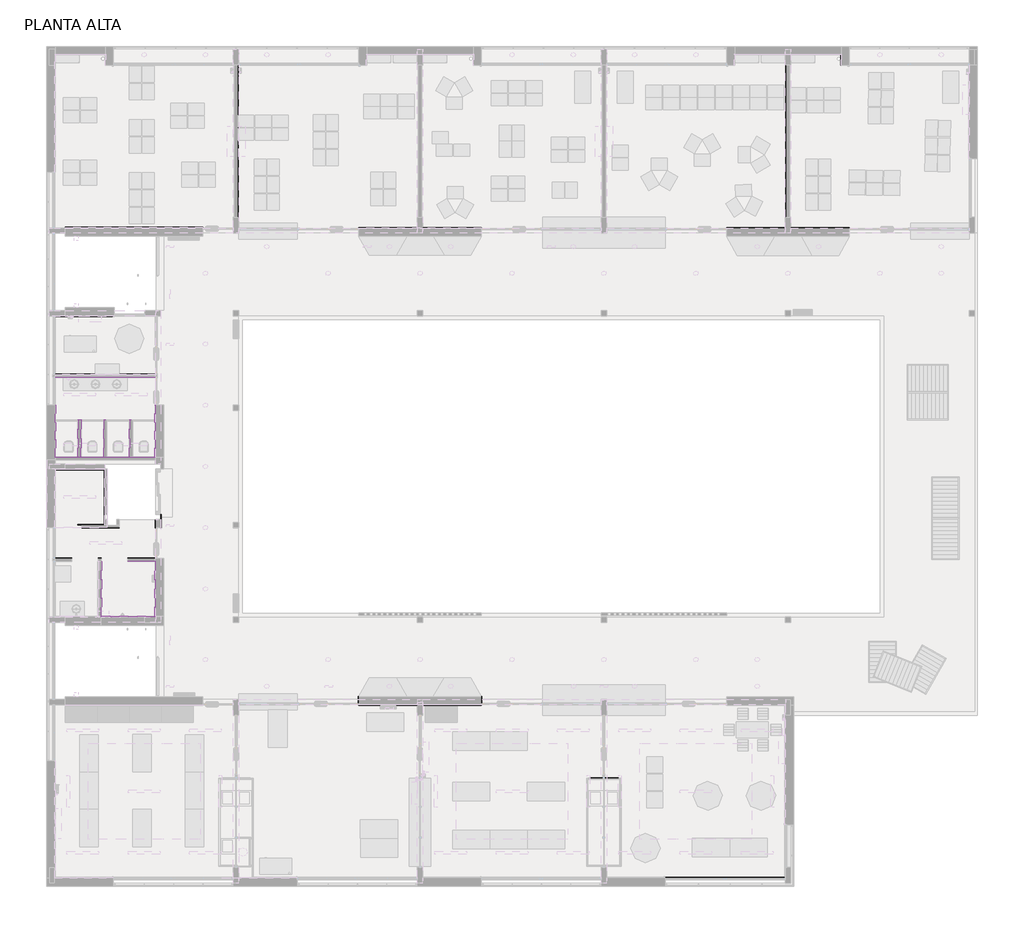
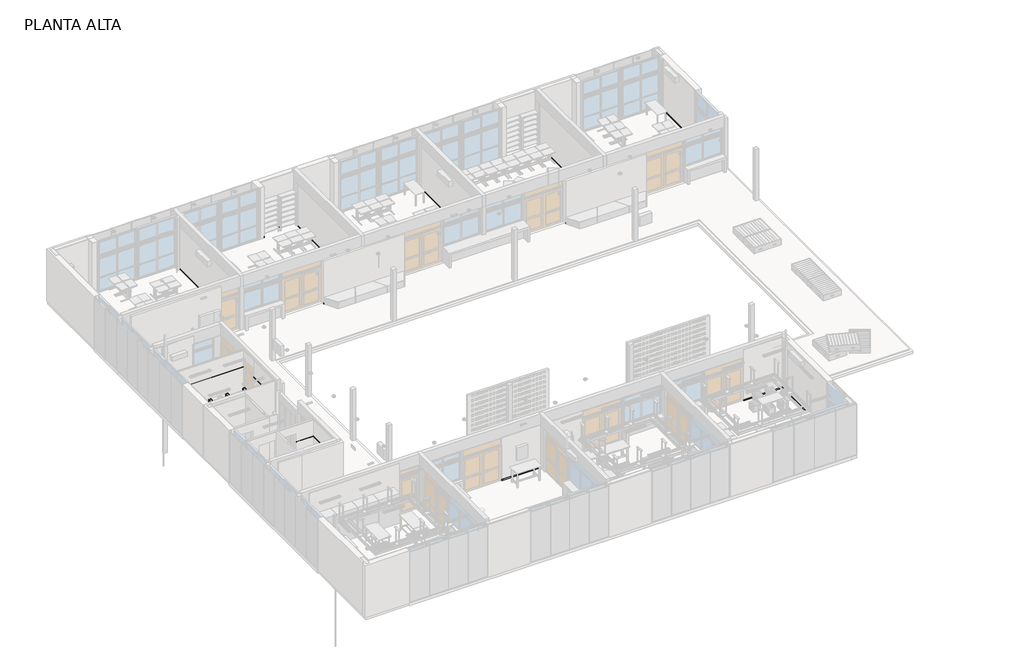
# One storey, part 14 of 14: 39 proxies.
"""IFC4 building model written with IfcOpenShell, lengths in millimetres."""

from ifc_helpers import new_model, si_unit, frame, origin, place, context, project, spatial, polyline, outline, extrude, faceted_brep, element, save

model = new_model("IFC4")

# Units and contexts
model_context = context("Model", 3, world=origin())
ifc_project = project(units=[si_unit("LENGTHUNIT", "METRE", prefix="MILLI")], contexts=[model_context])

# Site, building, storey
site = spatial("IfcSite", under=ifc_project)
building = spatial("IfcBuilding", under=site)
storey = spatial("IfcBuildingStorey", under=building, Name="PLANTA ALTA", Elevation=3310.0)

# Proxies
placement = place(None, origin())
element("IfcBuildingElementProxy", 1, Name="23-BAR-ZÓCALO DE BALDOSA H 70mm", ObjectType="23-BAR-ZÓCALO DE BALDOSA H 70mm", at=placement, inside=storey, context=model_context, shape_type="SweptSolid", body=[
    extrude(outline(polyline([(26288.7173693, 535.2304035), (26288.7173693, 545.2304035), (30763.7173693, 545.2304035), (30773.7173693, 535.2304035), (26288.7173693, 535.2304035)])), frame((0.0, 0.0, 3310.0), z_axis=(0.0, 0.0, 1.0), x_axis=(1.0, 0.0, 0.0)), (0.0, 0.0, 1.0), 70.0),
    extrude(outline(polyline([(30763.7173693, 920.2304035), (30773.7173693, 920.2304035), (30773.7173693, 535.2304035), (30763.7173693, 545.2304035), (30763.7173693, 920.2304035)])), frame((0.0, 0.0, 3310.0), z_axis=(0.0, 0.0, 1.0), x_axis=(1.0, 0.0, 0.0)), (0.0, 0.0, 1.0), 70.0),
    extrude(outline(polyline([(30773.7173693, 920.2304035), (30763.7173693, 920.2304035), (30763.7173693, 2520.2304035), (30773.7173693, 2520.2304035), (30773.7173693, 920.2304035)])), frame((0.0, 0.0, 3310.0), z_axis=(0.0, 0.0, 1.0), x_axis=(1.0, 0.0, 0.0)), (0.0, 0.0, 1.0), 70.0),
    extrude(outline(polyline([(30763.7173693, 6995.2304035), (30773.7173693, 7005.2304035), (30773.7173693, 2520.2304035), (30763.7173693, 2520.2304035), (30763.7173693, 6995.2304035)])), frame((0.0, 0.0, 3310.0), z_axis=(0.0, 0.0, 1.0), x_axis=(1.0, 0.0, 0.0)), (0.0, 0.0, 1.0), 70.0),
    extrude(outline(polyline([(28588.7173694, 6995.2304035), (28588.7173694, 7005.2304035), (30773.7173693, 7005.2304035), (30763.7173693, 6995.2304035), (28588.7173694, 6995.2304035)])), frame((0.0, 0.0, 3310.0), z_axis=(0.0, 0.0, 1.0), x_axis=(1.0, 0.0, 0.0)), (0.0, 0.0, 1.0), 70.0),
])
element("IfcBuildingElementProxy", 2, Name="23-BAR-ZÓCALO DE BALDOSA H 70mm", ObjectType="23-BAR-ZÓCALO DE BALDOSA H 70mm", at=placement, inside=storey, context=model_context, shape_type="SweptSolid", body=[
    extrude(outline(polyline([(23458.3173694, 4270.2304035), (23458.3173694, 4280.2304035), (24520.0173694, 4280.2304035), (24520.0173694, 4270.2304035), (23458.3173694, 4270.2304035)])), frame((0.0, 0.0, 3310.0), z_axis=(0.0, 0.0, 1.0), x_axis=(1.0, 0.0, 0.0)), (0.0, 0.0, 1.0), 70.0),
    extrude(outline(polyline([(23458.3173694, 960.2304035), (23458.3173694, 970.2304035), (24520.0173694, 970.2304035), (24520.0173694, 960.2304035), (23458.3173694, 960.2304035)])), frame((0.0, 0.0, 3310.0), z_axis=(0.0, 0.0, 1.0), x_axis=(1.0, 0.0, 0.0)), (0.0, 0.0, 1.0), 70.0),
])
element("IfcBuildingElementProxy", 3, Name="23-BAR-ZÓCALO DE BALDOSA H 70mm", ObjectType="23-BAR-ZÓCALO DE BALDOSA H 70mm", at=placement, inside=storey, context=model_context, shape_type="SweptSolid", body=[
    extrude(outline(polyline([(14788.7173694, 7010.2304035), (14788.7173694, 7020.2304035), (16988.7173694, 7020.2304035), (16988.7173694, 7010.2304035), (14788.7173694, 7010.2304035)])), frame((0.0, 0.0, 3310.0), z_axis=(0.0, 0.0, 1.0), x_axis=(1.0, 0.0, 0.0)), (0.0, 0.0, 1.0), 70.0),
    extrude(outline(polyline([(19388.7173694, 7020.2304035), (19388.7173694, 7010.2304035), (17188.7173694, 7010.2304035), (17188.7173694, 7020.2304035), (19388.7173694, 7020.2304035)])), frame((0.0, 0.0, 3310.0), z_axis=(0.0, 0.0, 1.0), x_axis=(1.0, 0.0, 0.0)), (0.0, 0.0, 1.0), 70.0),
])
element("IfcBuildingElementProxy", 4, Name="23-BAR-ZÓCALO DE BALDOSA H 70mm", ObjectType="23-BAR-ZÓCALO DE BALDOSA H 70mm", at=placement, inside=storey, context=model_context, shape_type="Brep", body=[
    faceted_brep([(14778.7173694, 7340.2304035, 3310.0), (14778.7173694, 7340.2304035, 3380.0), (19398.7173694, 7340.2304035, 3380.0), (19398.7173694, 7340.2304035, 3310.0), (14788.7173694, 7330.2304035, 3310.0), (19388.7173694, 7330.2304035, 3310.0), (14788.7173694, 7330.2304035, 3380.0), (19388.7173694, 7330.2304035, 3380.0), (14778.7173694, 7086.2304035, 3380.0), (14778.7173694, 7086.2304035, 3310.0), (14788.7173694, 7086.2304035, 3310.0), (14788.7173694, 7086.2304035, 3380.0), (19398.7173694, 7086.2304035, 3380.0), (19388.7173694, 7086.2304035, 3380.0), (19388.7173694, 7086.2304035, 3310.0), (19398.7173694, 7086.2304035, 3310.0)], [[[0, 1, 2, 3]], [[4, 0, 3, 5]], [[6, 4, 5, 7]], [[1, 6, 7, 2]], [[8, 9, 10, 11]], [[9, 8, 1, 0]], [[10, 9, 0, 4]], [[11, 10, 4, 6]], [[8, 11, 6, 1]], [[12, 13, 14, 15]], [[3, 2, 12, 15]], [[5, 3, 15, 14]], [[7, 5, 14, 13]], [[2, 7, 13, 12]]]),
])
element("IfcBuildingElementProxy", 5, Name="23-BAR-ZÓCALO DE BALDOSA H 70mm", ObjectType="23-BAR-ZÓCALO DE BALDOSA H 70mm", at=placement, inside=storey, context=model_context, shape_type="SweptSolid", body=[
    extrude(outline(polyline([(3403.7173693, 12400.2304035), (3403.7173693, 12410.2304035), (4018.7173694, 12410.2304035), (4018.7173694, 12400.2304035), (3403.7173693, 12400.2304035)])), frame((0.0, 0.0, 3310.0), z_axis=(0.0, 0.0, 1.0), x_axis=(1.0, 0.0, 0.0)), (0.0, 0.0, 1.0), 70.0),
])
element("IfcBuildingElementProxy", 6, Name="23-BAR-ZÓCALO DE BALDOSA H 70mm", ObjectType="23-BAR-ZÓCALO DE BALDOSA H 70mm", at=placement, inside=storey, context=model_context, shape_type="SweptSolid", body=[
    extrude(outline(polyline([(3403.7173693, 12520.2304035), (3403.7173693, 12530.2304035), (4018.7173694, 12530.2304035), (4018.7173694, 12520.2304035), (3403.7173693, 12520.2304035)])), frame((0.0, 0.0, 3311.0), z_axis=(0.0, 0.0, 1.0), x_axis=(1.0, 0.0, 0.0)), (0.0, 0.0, 1.0), 70.0),
    extrude(outline(polyline([(5018.7173694, 12520.2304035), (5018.7173694, 12530.2304035), (5133.7173694, 12530.2304035), (5133.7173694, 12520.2304035), (5018.7173694, 12520.2304035)])), frame((0.0, 0.0, 3311.0), z_axis=(0.0, 0.0, 1.0), x_axis=(1.0, 0.0, 0.0)), (0.0, 0.0, 1.0), 70.0),
])
element("IfcBuildingElementProxy", 7, Name="23-BAR-ZÓCALO DE BALDOSA H 70mm", ObjectType="23-BAR-ZÓCALO DE BALDOSA H 70mm", at=placement, inside=storey, context=model_context, shape_type="SweptSolid", body=[
    extrude(outline(polyline([(6133.7173694, 12520.2304035), (6133.7173694, 12530.2304035), (7148.7173693, 12530.2304035), (7148.7173693, 12520.2304035), (6133.7173694, 12520.2304035)])), frame((0.0, 0.0, 3311.0), z_axis=(0.0, 0.0, 1.0), x_axis=(1.0, 0.0, 0.0)), (0.0, 0.0, 1.0), 70.0),
])
element("IfcBuildingElementProxy", 8, Name="23-BAR-ZÓCALO DE BALDOSA H 70mm", ObjectType="23-BAR-ZÓCALO DE BALDOSA H 70mm", at=placement, inside=storey, context=model_context, shape_type="SweptSolid", body=[
    extrude(outline(polyline([(7158.7173694, 13970.2304035), (7168.7173694, 13970.2304035), (7168.7173694, 13670.2304035), (7158.7173694, 13670.2304035), (7158.7173694, 13970.2304035)])), frame((0.0, 0.0, 3310.0), z_axis=(0.0, 0.0, 1.0), x_axis=(1.0, 0.0, 0.0)), (0.0, 0.0, 1.0), 70.0),
])
element("IfcBuildingElementProxy", 9, Name="23-BAR-ZÓCALO DE BALDOSA H 70mm", ObjectType="23-BAR-ZÓCALO DE BALDOSA H 70mm", at=placement, inside=storey, context=model_context, shape_type="SweptSolid", body=[
    extrude(outline(polyline([(4403.7173694, 13660.2304035), (4403.7173694, 13670.2304035), (5813.7173694, 13670.2304035), (5813.7173694, 13660.2304035), (4403.7173694, 13660.2304035)])), frame((0.0, 0.0, 3311.0), z_axis=(0.0, 0.0, 1.0), x_axis=(1.0, 0.0, 0.0)), (0.0, 0.0, 1.0), 70.0),
    extrude(outline(polyline([(5813.7173694, 13670.2304035), (5803.7173694, 13670.2304035), (5803.7173694, 13970.2304035), (5813.7173694, 13970.2304035), (5813.7173694, 13670.2304035)])), frame((0.0, 0.0, 3311.0), z_axis=(0.0, 0.0, 1.0), x_axis=(1.0, 0.0, 0.0)), (0.0, 0.0, 1.0), 70.0),
])
element("IfcBuildingElementProxy", 10, Name="23-BAR-ZÓCALO DE BALDOSA H 70mm", ObjectType="23-BAR-ZÓCALO DE BALDOSA H 70mm", at=placement, inside=storey, context=model_context, shape_type="SweptSolid", body=[
    extrude(outline(polyline([(7368.7173694, 14170.2304035), (7378.7173694, 14170.2304035), (7378.7173694, 13670.2304035), (7368.7173694, 13670.2304035), (7368.7173694, 14170.2304035)])), frame((0.0, 0.0, 3311.0), z_axis=(0.0, 0.0, 1.0), x_axis=(1.0, 0.0, 0.0)), (0.0, 0.0, 1.0), 70.0),
])
element("IfcBuildingElementProxy", 11, Name="23-BAR-ZÓCALO DE BALDOSA H 70mm", ObjectType="23-BAR-ZÓCALO DE BALDOSA H 70mm", at=placement, inside=storey, context=model_context, shape_type="SweptSolid", body=[
    extrude(outline(polyline([(3403.7173694, 15845.2304035), (3403.7173694, 15855.2304035), (5268.7173693, 15855.2304035), (5268.7173693, 15845.2304035), (3403.7173694, 15845.2304035)])), frame((0.0, 0.0, 3310.0), z_axis=(0.0, 0.0, 1.0), x_axis=(1.0, 0.0, 0.0)), (0.0, 0.0, 1.0), 70.0),
    extrude(outline(polyline([(5243.7173693, 15870.2304035), (5253.7173693, 15870.2304035), (5253.7173693, 13780.2304035), (5243.7173693, 13790.2304035), (5243.7173693, 15870.2304035)])), frame((0.0, 0.0, 3310.0), z_axis=(0.0, 0.0, 1.0), x_axis=(1.0, 0.0, 0.0)), (0.0, 0.0, 1.0), 70.0),
    extrude(outline(polyline([(4253.7173693, 13780.2304035), (4253.7173693, 13790.2304035), (5243.7173693, 13790.2304035), (5253.7173693, 13780.2304035), (4253.7173693, 13780.2304035)])), frame((0.0, 0.0, 3310.0), z_axis=(0.0, 0.0, 1.0), x_axis=(1.0, 0.0, 0.0)), (0.0, 0.0, 1.0), 70.0),
    extrude(outline(polyline([(3403.7173694, 16220.2304035), (3413.7173694, 16220.2304035), (3413.7173694, 13780.2304035), (3403.7173694, 13780.2304035), (3403.7173694, 16220.2304035)])), frame((0.0, 0.0, 3310.0), z_axis=(0.0, 0.0, 1.0), x_axis=(1.0, 0.0, 0.0)), (0.0, 0.0, 1.0), 70.0),
])
element("IfcBuildingElementProxy", 12, Name="23-BAR-ZÓCALO DE BALDOSA H 70mm", ObjectType="23-BAR-ZÓCALO DE BALDOSA H 70mm", at=placement, inside=storey, context=model_context, shape_type="SweptSolid", body=[
    extrude(outline(polyline([(3408.7173694, 19420.2304035), (3408.7173694, 19430.2304035), (7134.7173694, 19430.2304035), (7134.7173694, 19420.2304035), (3408.7173694, 19420.2304035)])), frame((0.0, 0.0, 3310.0), z_axis=(0.0, 0.0, 1.0), x_axis=(1.0, 0.0, 0.0)), (0.0, 0.0, 1.0), 70.0),
])
element("IfcBuildingElementProxy", 13, Name="23-BAR-ZÓCALO DE BALDOSA H 70mm", ObjectType="23-BAR-ZÓCALO DE BALDOSA H 70mm", at=placement, inside=storey, context=model_context, shape_type="SweptSolid", body=[
    extrude(outline(polyline([(3408.7173694, 21595.2304035), (3408.7173694, 21605.2304035), (5568.7173693, 21605.2304035), (5568.7173693, 21595.2304035), (3408.7173694, 21595.2304035)])), frame((0.0, 0.0, 3310.0), z_axis=(0.0, 0.0, 1.0), x_axis=(1.0, 0.0, 0.0)), (0.0, 0.0, 1.0), 70.0),
])
element("IfcBuildingElementProxy", 14, Name="23-BAR-ZÓCALO DE BALDOSA H 70mm", ObjectType="23-BAR-ZÓCALO DE BALDOSA H 70mm", at=placement, inside=storey, context=model_context, shape_type="SweptSolid", body=[
    extrude(outline(polyline([(3403.7173694, 31430.2304035), (3413.7173694, 31420.2304035), (3413.7173694, 31020.7304035), (3403.7173694, 31020.7304035), (3403.7173694, 31430.2304035)])), frame((0.0, 0.0, 3310.0), z_axis=(0.0, 0.0, 1.0), x_axis=(1.0, 0.0, 0.0)), (0.0, 0.0, 1.0), 70.0),
    extrude(outline(polyline([(5288.7173693, 31430.2304035), (5278.7173693, 31420.2304035), (3413.7173694, 31420.2304035), (3403.7173694, 31430.2304035), (5288.7173693, 31430.2304035)])), frame((0.0, 0.0, 3310.0), z_axis=(0.0, 0.0, 1.0), x_axis=(1.0, 0.0, 0.0)), (0.0, 0.0, 1.0), 70.0),
    extrude(outline(polyline([(5278.7173693, 31420.2304035), (5288.7173693, 31430.2304035), (5288.7173693, 31020.2304035), (5278.7173693, 31020.2304035), (5278.7173693, 31420.2304035)])), frame((0.0, 0.0, 3310.0), z_axis=(0.0, 0.0, 1.0), x_axis=(1.0, 0.0, 0.0)), (0.0, 0.0, 1.0), 70.0),
])
element("IfcBuildingElementProxy", 15, Name="23-BAR-ZÓCALO DE EPS", ObjectType="23-BAR-ZÓCALO DE EPS", at=placement, inside=storey, context=model_context, shape_type="SweptSolid", body=[
    extrude(outline(polyline([(10116.7173694, 31020.2304035), (10123.7173694, 31020.2304035), (10123.7173694, 25320.6727904), (10116.7173694, 25320.6727904), (10116.7173694, 31020.2304035)])), frame((0.0, 0.0, 3310.0), z_axis=(0.0, 0.0, 1.0), x_axis=(1.0, 0.0, 0.0)), (0.0, 0.0, 1.0), 50.0),
])
element("IfcBuildingElementProxy", 16, Name="23-BAR-ZÓCALO DE EPS", ObjectType="23-BAR-ZÓCALO DE EPS", at=placement, inside=storey, context=model_context, shape_type="SweptSolid", body=[
    extrude(outline(polyline([(17016.7173694, 31020.2304035), (17023.7173694, 31020.2304035), (17023.7173694, 25320.2304035), (17016.7173694, 25320.2304035), (17016.7173694, 31020.2304035)])), frame((0.0, 0.0, 3310.0), z_axis=(0.0, 0.0, 1.0), x_axis=(1.0, 0.0, 0.0)), (0.0, 0.0, 1.0), 50.0),
])
element("IfcBuildingElementProxy", 17, Name="23-BAR-ZÓCALO DE EPS", ObjectType="23-BAR-ZÓCALO DE EPS", at=placement, inside=storey, context=model_context, shape_type="SweptSolid", body=[
    extrude(outline(polyline([(23916.7173694, 31020.2304035), (23923.7173694, 31020.2304035), (23923.7173694, 25320.2304035), (23916.7173694, 25320.2304035), (23916.7173694, 31020.2304035)])), frame((0.0, 0.0, 3310.0), z_axis=(0.0, 0.0, 1.0), x_axis=(1.0, 0.0, 0.0)), (0.0, 0.0, 1.0), 50.0),
])
element("IfcBuildingElementProxy", 18, Name="23-BAR-ZÓCALO DE EPS", ObjectType="23-BAR-ZÓCALO DE EPS", at=placement, inside=storey, context=model_context, shape_type="SweptSolid", body=[
    extrude(outline(polyline([(30816.7173693, 31020.2304035), (30823.7173693, 31020.2304035), (30823.7173693, 25320.2304035), (30816.7173693, 25320.2304035), (30816.7173693, 31020.2304035)])), frame((0.0, 0.0, 3310.0), z_axis=(0.0, 0.0, 1.0), x_axis=(1.0, 0.0, 0.0)), (0.0, 0.0, 1.0), 50.0),
])
element("IfcBuildingElementProxy", 19, Name="23-BAR-ZÓCALO DE EPS", ObjectType="23-BAR-ZÓCALO DE EPS", at=placement, inside=storey, context=model_context, shape_type="SweptSolid", body=[
    extrude(outline(polyline([(30953.7173693, 31020.2304035), (30960.7173693, 31020.2304035), (30960.7173693, 25320.2304035), (30953.7173693, 25320.2304035), (30953.7173693, 31020.2304035)])), frame((0.0, 0.0, 3310.0), z_axis=(0.0, 0.0, 1.0), x_axis=(1.0, 0.0, 0.0)), (0.0, 0.0, 1.0), 50.0),
])
element("IfcBuildingElementProxy", 20, Name="23-BAR-ZÓCALO DE EPS", ObjectType="23-BAR-ZÓCALO DE EPS", at=placement, inside=storey, context=model_context, shape_type="SweptSolid", body=[
    extrude(outline(polyline([(24053.7173694, 31020.2304035), (24060.7173694, 31020.2304035), (24060.7173694, 25320.2304035), (24053.7173694, 25320.2304035), (24053.7173694, 31020.2304035)])), frame((0.0, 0.0, 3310.0), z_axis=(0.0, 0.0, 1.0), x_axis=(1.0, 0.0, 0.0)), (0.0, 0.0, 1.0), 50.0),
])
element("IfcBuildingElementProxy", 21, Name="23-BAR-ZÓCALO DE EPS", ObjectType="23-BAR-ZÓCALO DE EPS", at=placement, inside=storey, context=model_context, shape_type="SweptSolid", body=[
    extrude(outline(polyline([(17153.7173694, 31020.2304035), (17160.7173694, 31020.2304035), (17160.7173694, 25320.2304035), (17153.7173694, 25320.2304035), (17153.7173694, 31020.2304035)])), frame((0.0, 0.0, 3310.0), z_axis=(0.0, 0.0, 1.0), x_axis=(1.0, 0.0, 0.0)), (0.0, 0.0, 1.0), 50.0),
])
element("IfcBuildingElementProxy", 22, Name="23-BAR-ZÓCALO DE EPS", ObjectType="23-BAR-ZÓCALO DE EPS", at=placement, inside=storey, context=model_context, shape_type="SweptSolid", body=[
    extrude(outline(polyline([(10253.7173694, 31020.2304035), (10260.7173694, 31020.2304035), (10260.7173694, 25320.6727904), (10253.7173694, 25320.6727904), (10253.7173694, 31020.2304035)])), frame((0.0, 0.0, 3310.0), z_axis=(0.0, 0.0, 1.0), x_axis=(1.0, 0.0, 0.0)), (0.0, 0.0, 1.0), 50.0),
])
element("IfcBuildingElementProxy", 23, Name="23-BAR-ZÓCALO DE BALDOSA H 70mm", ObjectType="23-BAR-ZÓCALO DE BALDOSA H 70mm", at=placement, inside=storey, context=model_context, shape_type="SweptSolid", body=[
    extrude(outline(polyline([(15088.7173693, 31430.2304035), (15098.7173693, 31420.2304035), (15098.7173693, 31020.2304035), (15088.7173693, 31020.2304035), (15088.7173693, 31430.2304035)])), frame((0.0, 0.0, 3310.0), z_axis=(0.0, 0.0, 1.0), x_axis=(1.0, 0.0, 0.0)), (0.0, 0.0, 1.0), 70.0),
    extrude(outline(polyline([(15098.7173693, 31420.2304035), (15088.7173693, 31430.2304035), (16988.7173693, 31430.2304035), (16988.7173693, 31420.2304035), (15098.7173693, 31420.2304035)])), frame((0.0, 0.0, 3310.0), z_axis=(0.0, 0.0, 1.0), x_axis=(1.0, 0.0, 0.0)), (0.0, 0.0, 1.0), 70.0),
    extrude(outline(polyline([(19088.7173693, 31430.2304035), (19078.7173693, 31420.2304035), (17188.7173693, 31420.2304035), (17188.7173693, 31430.2304035), (19088.7173693, 31430.2304035)])), frame((0.0, 0.0, 3310.0), z_axis=(0.0, 0.0, 1.0), x_axis=(1.0, 0.0, 0.0)), (0.0, 0.0, 1.0), 70.0),
    extrude(outline(polyline([(19078.7173693, 31420.2304035), (19088.7173693, 31430.2304035), (19088.7173693, 31020.2304035), (19078.7173693, 31020.2304035), (19078.7173693, 31420.2304035)])), frame((0.0, 0.0, 3310.0), z_axis=(0.0, 0.0, 1.0), x_axis=(1.0, 0.0, 0.0)), (0.0, 0.0, 1.0), 70.0),
])
element("IfcBuildingElementProxy", 24, Name="23-BAR-ZÓCALO DE BALDOSA H 70mm", ObjectType="23-BAR-ZÓCALO DE BALDOSA H 70mm", at=placement, inside=storey, context=model_context, shape_type="SweptSolid", body=[
    extrude(outline(polyline([(32878.7173693, 31420.2304035), (32888.7173693, 31430.2304035), (32888.7173693, 31020.2304035), (32878.7173693, 31020.2304035), (32878.7173693, 31420.2304035)])), frame((0.0, 0.0, 3310.0), z_axis=(0.0, 0.0, 1.0), x_axis=(1.0, 0.0, 0.0)), (0.0, 0.0, 1.0), 70.0),
    extrude(outline(polyline([(28898.7173693, 31420.2304035), (28888.7173693, 31430.2304035), (32888.7173693, 31430.2304035), (32878.7173693, 31420.2304035), (28898.7173693, 31420.2304035)])), frame((0.0, 0.0, 3310.0), z_axis=(0.0, 0.0, 1.0), x_axis=(1.0, 0.0, 0.0)), (0.0, 0.0, 1.0), 70.0),
    extrude(outline(polyline([(28888.7173693, 31430.2304035), (28898.7173693, 31420.2304035), (28898.7173693, 31020.2304035), (28888.7173693, 31020.2304035), (28888.7173693, 31430.2304035)])), frame((0.0, 0.0, 3310.0), z_axis=(0.0, 0.0, 1.0), x_axis=(1.0, 0.0, 0.0)), (0.0, 0.0, 1.0), 70.0),
])
element("IfcBuildingElementProxy", 25, Name="23-BAR-ZÓCALO DE BALDOSA H 70mm", ObjectType="23-BAR-ZÓCALO DE BALDOSA H 70mm", at=placement, inside=storey, context=model_context, shape_type="SweptSolid", body=[
    extrude(outline(polyline([(14788.7173694, 24600.2304035), (14788.7173694, 24610.2304035), (19388.7173694, 24610.2304035), (19388.7173694, 24600.2304035), (14788.7173694, 24600.2304035)])), frame((0.0, 0.0, 3310.0), z_axis=(0.0, 0.0, 1.0), x_axis=(1.0, 0.0, 0.0)), (0.0, 0.0, 1.0), 70.0),
    extrude(outline(polyline([(28588.7173694, 24600.2304035), (28588.7173694, 24610.2304035), (33188.7173693, 24610.2304035), (33188.7173693, 24600.2304035), (28588.7173694, 24600.2304035)])), frame((0.0, 0.0, 3310.0), z_axis=(0.0, 0.0, 1.0), x_axis=(1.0, 0.0, 0.0)), (0.0, 0.0, 1.0), 70.0),
])
element("IfcBuildingElementProxy", 26, Name="23-BAR-ZÓCALO DE BALDOSA H 70mm", ObjectType="23-BAR-ZÓCALO DE BALDOSA H 70mm", at=placement, inside=storey, context=model_context, shape_type="SweptSolid", body=[
    extrude(outline(polyline([(14788.7173694, 24920.2304035), (14788.7173694, 24930.2304035), (16988.7173694, 24930.2304035), (16988.7173694, 24920.2304035), (14788.7173694, 24920.2304035)])), frame((0.0, 0.0, 3310.0), z_axis=(0.0, 0.0, 1.0), x_axis=(1.0, 0.0, 0.0)), (0.0, 0.0, 1.0), 70.0),
    extrude(outline(polyline([(19388.7173694, 24930.2304035), (19388.7173694, 24920.2304035), (17188.7173694, 24920.2304035), (17188.7173694, 24930.2304035), (19388.7173694, 24930.2304035)])), frame((0.0, 0.0, 3310.0), z_axis=(0.0, 0.0, 1.0), x_axis=(1.0, 0.0, 0.0)), (0.0, 0.0, 1.0), 70.0),
    extrude(outline(polyline([(28588.7173694, 24920.2304035), (28588.7173694, 24930.2304035), (30788.7173693, 24930.2304035), (30788.7173693, 24920.2304035), (28588.7173694, 24920.2304035)])), frame((0.0, 0.0, 3310.0), z_axis=(0.0, 0.0, 1.0), x_axis=(1.0, 0.0, 0.0)), (0.0, 0.0, 1.0), 70.0),
    extrude(outline(polyline([(33188.7173693, 24930.2304035), (33188.7173693, 24920.2304035), (30988.7173693, 24920.2304035), (30988.7173693, 24930.2304035), (33188.7173693, 24930.2304035)])), frame((0.0, 0.0, 3310.0), z_axis=(0.0, 0.0, 1.0), x_axis=(1.0, 0.0, 0.0)), (0.0, 0.0, 1.0), 70.0),
])
element("IfcBuildingElementProxy", 27, Name="23-BAR-ZÓCALO DE BALDOSA H 70mm", ObjectType="23-BAR-ZÓCALO DE BALDOSA H 70mm", at=placement, inside=storey, context=model_context, shape_type="SweptSolid", body=[
    extrude(outline(polyline([(3403.7173694, 30995.2304035), (3413.7173694, 30995.2304035), (3413.7173694, 27020.2304035), (3403.7173694, 27020.2304035), (3403.7173694, 30995.2304035)])), frame((0.0, 0.0, 3310.0), z_axis=(0.0, 0.0, 1.0), x_axis=(1.0, 0.0, 0.0)), (0.0, 0.0, 1.0), 70.0),
    extrude(outline(polyline([(3788.7173693, 24935.2304035), (3788.7173693, 24945.2304035), (8938.7173694, 24945.2304035), (8938.7173694, 24935.2304035), (3788.7173693, 24935.2304035)])), frame((0.0, 0.0, 3310.0), z_axis=(0.0, 0.0, 1.0), x_axis=(1.0, 0.0, 0.0)), (0.0, 0.0, 1.0), 70.0),
])
element("IfcBuildingElementProxy", 28, Name="23-BAR-ZÓCALO DE BALDOSA H 70mm", ObjectType="23-BAR-ZÓCALO DE BALDOSA H 70mm", at=placement, inside=storey, context=model_context, shape_type="SweptSolid", body=[
    extrude(outline(polyline([(37663.7173693, 30700.2304035), (37673.7173693, 30700.2304035), (37673.7173693, 27520.2304035), (37663.7173693, 27520.2304035), (37663.7173693, 30700.2304035)])), frame((0.0, 0.0, 3310.0), z_axis=(0.0, 0.0, 1.0), x_axis=(1.0, 0.0, 0.0)), (0.0, 0.0, 1.0), 70.0),
])
element("IfcBuildingElementProxy", 29, Name="23-BAR-BUÑA PLANCHUELA 20x3.3", ObjectType="23-BAR-BUÑA PLANCHUELA 20x3.3", at=placement, inside=storey, context=model_context, shape_type="SweptSolid", body=[
    extrude(outline(polyline([(3408.7173694, 19299.7304035), (3408.7173694, 19319.7304035), (7134.7173694, 19319.7304035), (7134.7173694, 19299.7304035), (3408.7173694, 19299.7304035)])), frame((0.0, 0.0, 5410.0), z_axis=(0.0, 0.0, 1.0), x_axis=(1.0, 0.0, 0.0)), (0.0, 0.0, 1.0), 3.3),
])
element("IfcBuildingElementProxy", 30, Name="23-BAR-BUÑA PLANCHUELA 20x3.3", ObjectType="23-BAR-BUÑA PLANCHUELA 20x3.3", at=placement, inside=storey, context=model_context, shape_type="SweptSolid", body=[
    extrude(outline(polyline([(7138.6173694, 18270.2304035), (7158.6173694, 18270.2304035), (7158.6173694, 16310.2304035), (7138.6173694, 16310.2304035), (7138.6173694, 18270.2304035)])), frame((0.0, 0.0, 5410.0), z_axis=(0.0, 0.0, 1.0), x_axis=(1.0, 0.0, 0.0)), (0.0, 0.0, 1.0), 3.3),
    extrude(outline(polyline([(7153.7173694, 16330.3304035), (7153.7173694, 16310.3304035), (3398.8173694, 16310.3304035), (3418.8173694, 16330.3304035), (7153.7173694, 16330.3304035)])), frame((0.0, 0.0, 5410.0), z_axis=(0.0, 0.0, 1.0), x_axis=(1.0, 0.0, 0.0)), (0.0, 0.0, 1.0), 3.3),
    extrude(outline(polyline([(3398.8173694, 18270.2304035), (3418.8173694, 18270.2304035), (3418.8173694, 16330.3304035), (3398.8173694, 16310.3304035), (3398.8173694, 18270.2304035)])), frame((0.0, 0.0, 5410.0), z_axis=(0.0, 0.0, 1.0), x_axis=(1.0, 0.0, 0.0)), (0.0, 0.0, 1.0), 3.3),
])
element("IfcBuildingElementProxy", 31, Name="23-BAR-BUÑA PLANCHUELA 20x3.3", ObjectType="23-BAR-BUÑA PLANCHUELA 20x3.3", at=placement, inside=storey, context=model_context, shape_type="SweptSolid", body=[
    extrude(outline(polyline([(5143.8173694, 10350.3304035), (5123.8173694, 10330.3304035), (5123.8173694, 12410.2304035), (5143.8173694, 12410.2304035), (5143.8173694, 10350.3304035)])), frame((0.0, 0.0, 5410.0), z_axis=(0.0, 0.0, 1.0), x_axis=(1.0, 0.0, 0.0)), (0.0, 0.0, 1.0), 3.3),
    extrude(outline(polyline([(7138.6173693, 10350.3304035), (7158.6173693, 10330.3304035), (5123.8173694, 10330.3304035), (5143.8173694, 10350.3304035), (7138.6173693, 10350.3304035)])), frame((0.0, 0.0, 5410.0), z_axis=(0.0, 0.0, 1.0), x_axis=(1.0, 0.0, 0.0)), (0.0, 0.0, 1.0), 3.3),
    extrude(outline(polyline([(7158.6173693, 10330.3304035), (7138.6173693, 10350.3304035), (7138.6173693, 12395.1304035), (7158.6173693, 12415.1304035), (7158.6173693, 10330.3304035)])), frame((0.0, 0.0, 5410.0), z_axis=(0.0, 0.0, 1.0), x_axis=(1.0, 0.0, 0.0)), (0.0, 0.0, 1.0), 3.3),
    extrude(outline(polyline([(6133.7173694, 12395.1304035), (6133.7173694, 12415.1304035), (7158.6173693, 12415.1304035), (7138.6173693, 12395.1304035), (6133.7173694, 12395.1304035)])), frame((0.0, 0.0, 5410.0), z_axis=(0.0, 0.0, 1.0), x_axis=(1.0, 0.0, 0.0)), (0.0, 0.0, 1.0), 3.3),
])
element("IfcBuildingElementProxy", 32, Name="23-BAR-CANTONERA PERFIL L", ObjectType="23-BAR-CANTONERA PERFIL L", at=placement, inside=storey, context=model_context, shape_type="SweptSolid", body=[
    extrude(outline(polyline([(6192.7173694, 17721.2304035), (6192.7173694, 17720.2304035), (6183.7173694, 17720.2304035), (6183.7173694, 17711.2304035), (6182.7173694, 17711.2304035), (6182.7173694, 17721.2304035), (6192.7173694, 17721.2304035)])), frame((0.0, 0.0, 3310.0), z_axis=(0.0, 0.0, 1.0), x_axis=(1.0, 0.0, 0.0)), (0.0, 0.0, 1.0), 2091.5),
])
element("IfcBuildingElementProxy", 33, Name="23-BAR-CANTONERA PERFIL L", ObjectType="23-BAR-CANTONERA PERFIL L", at=placement, inside=storey, context=model_context, shape_type="SweptSolid", body=[
    extrude(outline(polyline([(5227.7173694, 17721.2304035), (5227.7173694, 17720.2304035), (5218.7173694, 17720.2304035), (5218.7173694, 17711.2304035), (5217.7173694, 17711.2304035), (5217.7173694, 17721.2304035), (5227.7173694, 17721.2304035)])), frame((0.0, 0.0, 3310.0), z_axis=(0.0, 0.0, 1.0), x_axis=(1.0, 0.0, 0.0)), (0.0, 0.0, 1.0), 2091.5),
    extrude(outline(polyline([(4262.7173694, 17721.2304035), (4262.7173694, 17720.2304035), (4253.7173694, 17720.2304035), (4253.7173694, 17711.2304035), (4252.7173694, 17711.2304035), (4252.7173694, 17721.2304035), (4262.7173694, 17721.2304035)])), frame((0.0, 0.0, 3310.0), z_axis=(0.0, 0.0, 1.0), x_axis=(1.0, 0.0, 0.0)), (0.0, 0.0, 1.0), 2091.5),
])
element("IfcBuildingElementProxy", 34, Name="23-BAR-CANTONERA PERFIL L 180", ObjectType="23-BAR-CANTONERA PERFIL L 180", at=placement, inside=storey, context=model_context, shape_type="SweptSolid", body=[
    extrude(outline(polyline([(6304.7173694, 17711.2304035), (6303.7173694, 17711.2304035), (6303.7173694, 17720.2304035), (6294.7173694, 17720.2304035), (6294.7173694, 17721.2304035), (6304.7173694, 17721.2304035), (6304.7173694, 17711.2304035)])), frame((0.0, 0.0, 3310.0), z_axis=(0.0, 0.0, 1.0), x_axis=(1.0, 0.0, 0.0)), (0.0, 0.0, 1.0), 2091.5),
])
element("IfcBuildingElementProxy", 35, Name="23-BAR-CANTONERA PERFIL L 180", ObjectType="23-BAR-CANTONERA PERFIL L 180", at=placement, inside=storey, context=model_context, shape_type="SweptSolid", body=[
    extrude(outline(polyline([(5339.7173694, 17711.2304035), (5338.7173694, 17711.2304035), (5338.7173694, 17720.2304035), (5329.7173694, 17720.2304035), (5329.7173694, 17721.2304035), (5339.7173694, 17721.2304035), (5339.7173694, 17711.2304035)])), frame((0.0, 0.0, 3310.0), z_axis=(0.0, 0.0, 1.0), x_axis=(1.0, 0.0, 0.0)), (0.0, 0.0, 1.0), 2091.5),
    extrude(outline(polyline([(4374.7173694, 17711.2304035), (4373.7173694, 17711.2304035), (4373.7173694, 17720.2304035), (4364.7173694, 17720.2304035), (4364.7173694, 17721.2304035), (4374.7173694, 17721.2304035), (4374.7173694, 17711.2304035)])), frame((0.0, 0.0, 3310.0), z_axis=(0.0, 0.0, 1.0), x_axis=(1.0, 0.0, 0.0)), (0.0, 0.0, 1.0), 2091.5),
])
element("IfcBuildingElementProxy", 36, Name="23-BAR-CANTONERA PERFIL L", ObjectType="23-BAR-CANTONERA PERFIL L", at=placement, inside=storey, context=model_context, shape_type="Brep", body=[
    faceted_brep([(6294.7173694, 16320.2304035, 5411.0), (6294.7173694, 16320.2304035, 5410.0), (6303.7173694, 16320.2304035, 5410.0), (6303.7173694, 16320.2304035, 5401.0), (6304.7173694, 16320.2304035, 5401.0), (6304.7173694, 16320.2304035, 5411.0), (6294.7173694, 17711.2304035, 5411.0), (6294.7173694, 17711.2304035, 5410.0), (6303.7173694, 17720.2304035, 5410.0), (6303.7173694, 17720.2304035, 5401.0), (6304.7173694, 17721.2304035, 5401.0), (6304.7173694, 17721.2304035, 5411.0), (6243.7173694, 17711.2304035, 5411.0), (6243.7173694, 17721.2304035, 5411.0), (6243.7173694, 17721.2304035, 5401.0), (6243.7173694, 17720.2304035, 5401.0), (6243.7173694, 17720.2304035, 5410.0), (6243.7173694, 17711.2304035, 5410.0)], [[[0, 1, 2, 3, 4, 5]], [[1, 0, 6, 7]], [[2, 1, 7, 8]], [[3, 2, 8, 9]], [[4, 3, 9, 10]], [[5, 4, 10, 11]], [[0, 5, 11, 6]], [[12, 13, 14, 15, 16, 17]], [[7, 6, 12, 17]], [[8, 7, 17, 16]], [[9, 8, 16, 15]], [[10, 9, 15, 14]], [[11, 10, 14, 13]], [[6, 11, 13, 12]]]),
    faceted_brep([(5329.7173694, 16320.2304035, 5411.0), (5329.7173694, 16320.2304035, 5410.0), (5338.7173694, 16320.2304035, 5410.0), (5338.7173694, 16320.2304035, 5401.0), (5339.7173694, 16320.2304035, 5401.0), (5339.7173694, 16320.2304035, 5411.0), (5329.7173694, 17711.2304035, 5411.0), (5329.7173694, 17711.2304035, 5410.0), (5338.7173694, 17720.2304035, 5410.0), (5338.7173694, 17720.2304035, 5401.0), (5339.7173694, 17721.2304035, 5401.0), (5339.7173694, 17721.2304035, 5411.0), (5273.7173694, 17711.2304035, 5411.0), (5273.7173694, 17721.2304035, 5411.0), (5273.7173694, 17721.2304035, 5401.0), (5273.7173694, 17720.2304035, 5401.0), (5273.7173694, 17720.2304035, 5410.0), (5273.7173694, 17711.2304035, 5410.0)], [[[0, 1, 2, 3, 4, 5]], [[1, 0, 6, 7]], [[2, 1, 7, 8]], [[3, 2, 8, 9]], [[4, 3, 9, 10]], [[5, 4, 10, 11]], [[0, 5, 11, 6]], [[12, 13, 14, 15, 16, 17]], [[7, 6, 12, 17]], [[8, 7, 17, 16]], [[9, 8, 16, 15]], [[10, 9, 15, 14]], [[11, 10, 14, 13]], [[6, 11, 13, 12]]]),
    faceted_brep([(4364.7173694, 16320.2304035, 5411.0), (4364.7173694, 16320.2304035, 5410.0), (4373.7173694, 16320.2304035, 5410.0), (4373.7173694, 16320.2304035, 5401.0), (4374.7173694, 16320.2304035, 5401.0), (4374.7173694, 16320.2304035, 5411.0), (4364.7173694, 17711.2304035, 5411.0), (4364.7173694, 17711.2304035, 5410.0), (4373.7173694, 17720.2304035, 5410.0), (4373.7173694, 17720.2304035, 5401.0), (4374.7173694, 17721.2304035, 5401.0), (4374.7173694, 17721.2304035, 5411.0), (4293.7173694, 17711.2304035, 5411.0), (4293.7173694, 17721.2304035, 5411.0), (4293.7173694, 17721.2304035, 5401.0), (4293.7173694, 17720.2304035, 5401.0), (4293.7173694, 17720.2304035, 5410.0), (4293.7173694, 17711.2304035, 5410.0)], [[[0, 1, 2, 3, 4, 5]], [[1, 0, 6, 7]], [[2, 1, 7, 8]], [[3, 2, 8, 9]], [[4, 3, 9, 10]], [[5, 4, 10, 11]], [[0, 5, 11, 6]], [[12, 13, 14, 15, 16, 17]], [[7, 6, 12, 17]], [[8, 7, 17, 16]], [[9, 8, 16, 15]], [[10, 9, 15, 14]], [[11, 10, 14, 13]], [[6, 11, 13, 12]]]),
])
element("IfcBuildingElementProxy", 37, Name="23-BAR-CANTONERA PERFIL L", ObjectType="23-BAR-CANTONERA PERFIL L", at=placement, inside=storey, context=model_context, shape_type="Brep", body=[
    faceted_brep([(6192.7173694, 16320.2304035, 5411.0), (6182.7173694, 16320.2304035, 5411.0), (6182.7173694, 16320.2304035, 5401.0), (6183.7173694, 16320.2304035, 5401.0), (6183.7173694, 16320.2304035, 5410.0), (6192.7173694, 16320.2304035, 5410.0), (6192.7173694, 17711.2304035, 5411.0), (6182.7173694, 17721.2304035, 5411.0), (6182.7173694, 17721.2304035, 5401.0), (6183.7173694, 17720.2304035, 5401.0), (6183.7173694, 17720.2304035, 5410.0), (6192.7173694, 17711.2304035, 5410.0), (6243.7173694, 17711.2304035, 5411.0), (6243.7173694, 17711.2304035, 5410.0), (6243.7173694, 17720.2304035, 5410.0), (6243.7173694, 17720.2304035, 5401.0), (6243.7173694, 17721.2304035, 5401.0), (6243.7173694, 17721.2304035, 5411.0)], [[[0, 1, 2, 3, 4, 5]], [[1, 0, 6, 7]], [[2, 1, 7, 8]], [[3, 2, 8, 9]], [[4, 3, 9, 10]], [[5, 4, 10, 11]], [[0, 5, 11, 6]], [[12, 13, 14, 15, 16, 17]], [[7, 6, 12, 17]], [[8, 7, 17, 16]], [[9, 8, 16, 15]], [[10, 9, 15, 14]], [[11, 10, 14, 13]], [[6, 11, 13, 12]]]),
])
element("IfcBuildingElementProxy", 38, Name="23-BAR-CANTONERA PERFIL L", ObjectType="23-BAR-CANTONERA PERFIL L", at=placement, inside=storey, context=model_context, shape_type="Brep", body=[
    faceted_brep([(5227.7173694, 16320.2304035, 5411.0), (5217.7173694, 16320.2304035, 5411.0), (5217.7173694, 16320.2304035, 5401.0), (5218.7173694, 16320.2304035, 5401.0), (5218.7173694, 16320.2304035, 5410.0), (5227.7173694, 16320.2304035, 5410.0), (5227.7173694, 17711.2304035, 5411.0), (5217.7173694, 17721.2304035, 5411.0), (5217.7173694, 17721.2304035, 5401.0), (5218.7173694, 17720.2304035, 5401.0), (5218.7173694, 17720.2304035, 5410.0), (5227.7173694, 17711.2304035, 5410.0), (5273.7173694, 17711.2304035, 5411.0), (5273.7173694, 17711.2304035, 5410.0), (5273.7173694, 17720.2304035, 5410.0), (5273.7173694, 17720.2304035, 5401.0), (5273.7173694, 17721.2304035, 5401.0), (5273.7173694, 17721.2304035, 5411.0)], [[[0, 1, 2, 3, 4, 5]], [[1, 0, 6, 7]], [[2, 1, 7, 8]], [[3, 2, 8, 9]], [[4, 3, 9, 10]], [[5, 4, 10, 11]], [[0, 5, 11, 6]], [[12, 13, 14, 15, 16, 17]], [[7, 6, 12, 17]], [[8, 7, 17, 16]], [[9, 8, 16, 15]], [[10, 9, 15, 14]], [[11, 10, 14, 13]], [[6, 11, 13, 12]]]),
])
element("IfcBuildingElementProxy", 39, Name="23-BAR-CANTONERA PERFIL L", ObjectType="23-BAR-CANTONERA PERFIL L", at=placement, inside=storey, context=model_context, shape_type="Brep", body=[
    faceted_brep([(4262.7173694, 16320.2304035, 5411.0), (4252.7173694, 16320.2304035, 5411.0), (4252.7173694, 16320.2304035, 5401.0), (4253.7173694, 16320.2304035, 5401.0), (4253.7173694, 16320.2304035, 5410.0), (4262.7173694, 16320.2304035, 5410.0), (4262.7173694, 17711.2304035, 5411.0), (4252.7173694, 17721.2304035, 5411.0), (4252.7173694, 17721.2304035, 5401.0), (4253.7173694, 17720.2304035, 5401.0), (4253.7173694, 17720.2304035, 5410.0), (4262.7173694, 17711.2304035, 5410.0), (4293.7173694, 17711.2304035, 5411.0), (4293.7173694, 17711.2304035, 5410.0), (4293.7173694, 17720.2304035, 5410.0), (4293.7173694, 17720.2304035, 5401.0), (4293.7173694, 17721.2304035, 5401.0), (4293.7173694, 17721.2304035, 5411.0)], [[[0, 1, 2, 3, 4, 5]], [[1, 0, 6, 7]], [[2, 1, 7, 8]], [[3, 2, 8, 9]], [[4, 3, 9, 10]], [[5, 4, 10, 11]], [[0, 5, 11, 6]], [[12, 13, 14, 15, 16, 17]], [[7, 6, 12, 17]], [[8, 7, 17, 16]], [[9, 8, 16, 15]], [[10, 9, 15, 14]], [[11, 10, 14, 13]], [[6, 11, 13, 12]]]),
])

save(model, "model.ifc")
